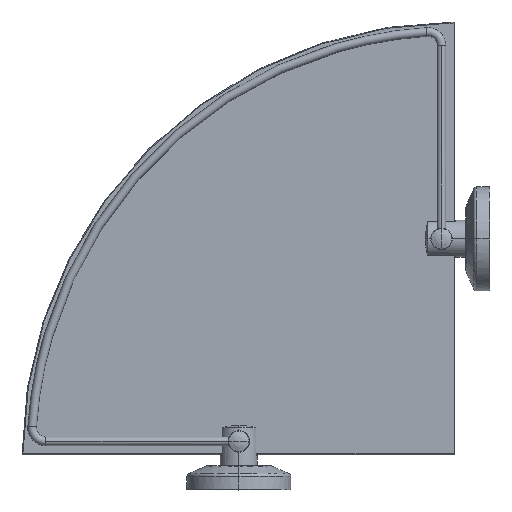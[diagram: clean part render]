
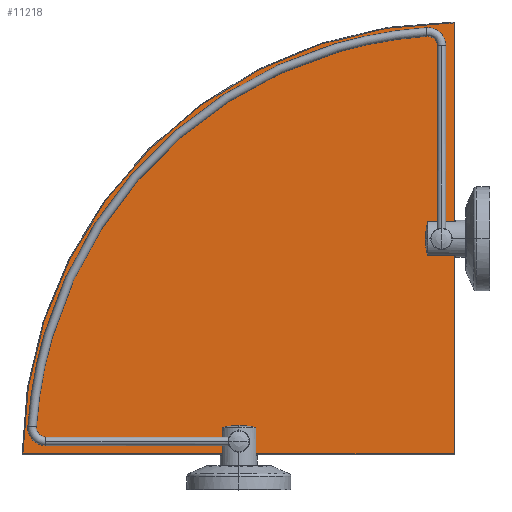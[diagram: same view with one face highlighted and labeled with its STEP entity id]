
A CAD part, top view. The second image highlights one B-rep face of the part: STEP entity #11218.
In plain terms, the highlighted planar face has unit normal (0, 0, 1).
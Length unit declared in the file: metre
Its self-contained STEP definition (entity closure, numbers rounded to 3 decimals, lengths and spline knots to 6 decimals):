
#11218=ADVANCED_FACE('',(#11224),#11219,.F.);
#11219=PLANE('',#11220);
#11220=AXIS2_PLACEMENT_3D('',#11221,#11222,#11223);
#11221=CARTESIAN_POINT('',(-0.00025,
  0.00025,-0.00025));
#11222=DIRECTION('',(0.0,0.0,-1.0));
#11223=DIRECTION('',(0.0,-1.0,0.0));
#11224=FACE_OUTER_BOUND('',#11225,.T.);
#11225=EDGE_LOOP('',(#11226,#11237,#11245));
#11226=ORIENTED_EDGE('',*,*,#11227,.T.);
#11227=EDGE_CURVE('',#11228,#11230,#11232,.F.);
#11228=VERTEX_POINT('',#11229);
#11229=CARTESIAN_POINT('',(-0.00075,0.249749,
  -0.00025));
#11230=VERTEX_POINT('',#11231);
#11231=CARTESIAN_POINT('',(-0.249749,0.00075,
  -0.00025));
#11232=CIRCLE('',#11233,0.2495);
#11233=AXIS2_PLACEMENT_3D('',#11234,#11235,#11236);
#11234=CARTESIAN_POINT('',(-0.00025,
  0.00025,-0.00025));
#11235=DIRECTION('',(0.0,0.0,-1.0));
#11236=DIRECTION('',(-1.0,0.0,0.0));
#11237=ORIENTED_EDGE('',*,*,#11238,.T.);
#11238=EDGE_CURVE('',#11230,#11239,#11241,.T.);
#11239=VERTEX_POINT('',#11240);
#11240=CARTESIAN_POINT('',(-0.00075,
  0.00075,-0.00025));
#11241=LINE('',#11242,#11243);
#11242=CARTESIAN_POINT('',(-0.00025,
  0.00075,-0.00025));
#11243=VECTOR('',#11244,1.0);
#11244=DIRECTION('',(1.0,0.0,0.0));
#11245=ORIENTED_EDGE('',*,*,#11246,.T.);
#11246=EDGE_CURVE('',#11239,#11228,#11247,.T.);
#11247=LINE('',#11248,#11249);
#11248=CARTESIAN_POINT('',(-0.00075,
  0.00025,-0.00025));
#11249=VECTOR('',#11250,1.0);
#11250=DIRECTION('',(0.0,1.0,0.0));
